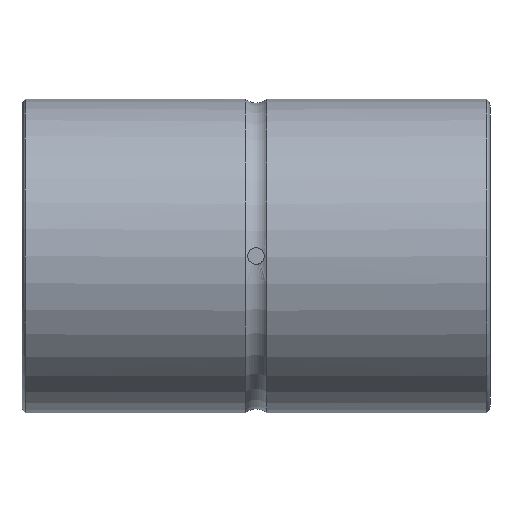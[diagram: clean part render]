
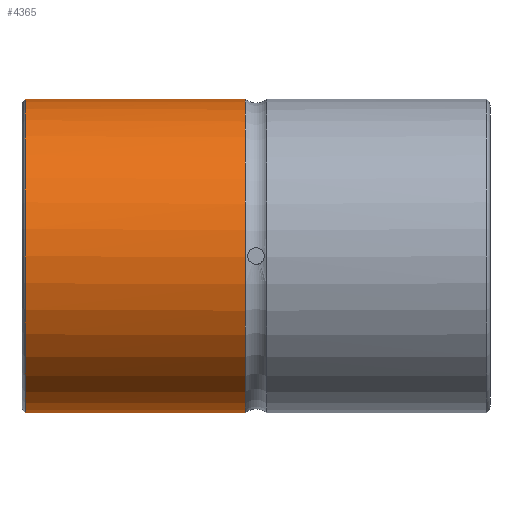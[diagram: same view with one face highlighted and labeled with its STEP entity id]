
A CAD part, front view. The second image highlights one B-rep face of the part: STEP entity #4365.
In plain terms, the highlighted cylindrical face has radius 37.5 mm (diameter 75 mm), a full revolution.
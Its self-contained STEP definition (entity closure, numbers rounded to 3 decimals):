
#38=B_SPLINE_CURVE_WITH_KNOTS('',3,(#7248,#7249,#7250,#7251,#7252,#7253,
#7254,#7255,#7256,#7257),.UNSPECIFIED.,.F.,.F.,(4,1,1,1,1,1,1,4),(0.,0.003,
0.006,0.009,0.012,0.015,
0.018,0.024),.UNSPECIFIED.);
#384=LINE('',#7260,#790);
#385=LINE('',#7261,#791);
#790=VECTOR('',#5761,1000.);
#791=VECTOR('',#5762,1000.);
#1555=ORIENTED_EDGE('',*,*,#2677,.T.);
#1556=ORIENTED_EDGE('',*,*,#2678,.T.);
#1557=ORIENTED_EDGE('',*,*,#2670,.F.);
#1558=ORIENTED_EDGE('',*,*,#2679,.T.);
#1559=ORIENTED_EDGE('',*,*,#2676,.T.);
#2670=EDGE_CURVE('',#3227,#3228,#3549,.T.);
#2676=EDGE_CURVE('',#3233,#3233,#3551,.T.);
#2677=EDGE_CURVE('',#3234,#3235,#38,.T.);
#2678=EDGE_CURVE('',#3235,#3228,#384,.T.);
#2679=EDGE_CURVE('',#3227,#3234,#385,.F.);
#3227=VERTEX_POINT('',#7193);
#3228=VERTEX_POINT('',#7194);
#3233=VERTEX_POINT('',#7246);
#3234=VERTEX_POINT('',#7258);
#3235=VERTEX_POINT('',#7259);
#3549=CIRCLE('',#4800,37.5);
#3551=CIRCLE('',#4803,37.5);
#3726=EDGE_LOOP('',(#1555,#1556,#1557,#1558));
#3727=EDGE_LOOP('',(#1559));
#3998=FACE_BOUND('',#3726,.T.);
#3999=FACE_BOUND('',#3727,.T.);
#4226=CYLINDRICAL_SURFACE('',#4804,37.5);
#4365=ADVANCED_FACE('',(#3998,#3999),#4226,.T.);
#4800=AXIS2_PLACEMENT_3D('',#7192,#5751,#5752);
#4803=AXIS2_PLACEMENT_3D('',#7245,#5757,#5758);
#4804=AXIS2_PLACEMENT_3D('',#7247,#5759,#5760);
#5751=DIRECTION('',(1.,0.,0.));
#5752=DIRECTION('',(0.,0.,-1.));
#5757=DIRECTION('',(1.,0.,0.));
#5758=DIRECTION('',(0.,0.,-1.));
#5759=DIRECTION('',(1.,0.,0.));
#5760=DIRECTION('',(0.,0.,-1.));
#5761=DIRECTION('',(1.,0.,0.));
#5762=DIRECTION('',(1.,0.,0.));
#7192=CARTESIAN_POINT('',(-2.53,0.,0.));
#7193=CARTESIAN_POINT('',(-2.53,36.742,7.5));
#7194=CARTESIAN_POINT('',(-2.53,36.742,-7.5));
#7245=CARTESIAN_POINT('',(-55.2,0.,0.));
#7246=CARTESIAN_POINT('',(-55.2,0.,-37.5));
#7247=CARTESIAN_POINT('',(56.,0.,0.));
#7248=CARTESIAN_POINT('',(-22.5,36.742,7.5));
#7249=CARTESIAN_POINT('',(-23.494,36.742,7.5));
#7250=CARTESIAN_POINT('',(-25.449,36.826,7.106));
#7251=CARTESIAN_POINT('',(-27.941,37.124,5.44));
#7252=CARTESIAN_POINT('',(-29.605,37.418,2.954));
#7253=CARTESIAN_POINT('',(-30.196,37.541,0.006));
#7254=CARTESIAN_POINT('',(-29.61,37.42,-2.944));
#7255=CARTESIAN_POINT('',(-27.388,37.022,-6.275));
#7256=CARTESIAN_POINT('',(-24.487,36.742,-7.5));
#7257=CARTESIAN_POINT('',(-22.5,36.742,-7.5));
#7258=CARTESIAN_POINT('',(-22.5,36.742,7.5));
#7259=CARTESIAN_POINT('',(-22.5,36.742,-7.5));
#7260=CARTESIAN_POINT('',(56.,36.742,-7.5));
#7261=CARTESIAN_POINT('',(56.,36.742,7.5));
